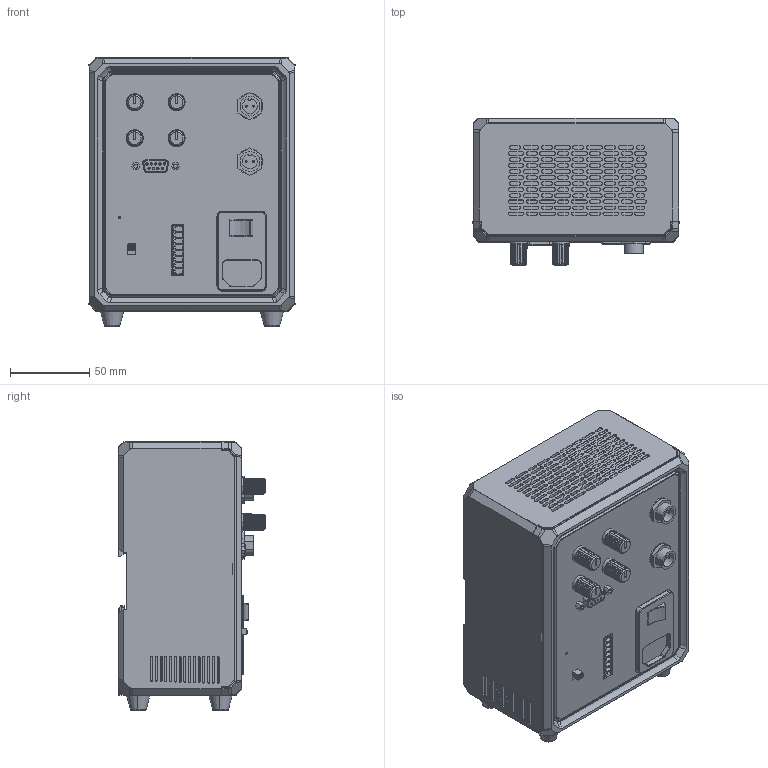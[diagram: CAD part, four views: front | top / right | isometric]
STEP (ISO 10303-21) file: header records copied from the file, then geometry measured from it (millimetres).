
FILE_DESCRIPTION((''),'2;1');
FILE_NAME('PRT0083','2024-04-07T10:40:20',('qinyangfan'),(''),'CREO PARAMETRIC BY PTC INC, 2020044','CREO PARAMETRIC BY PTC INC, 2020044','');
FILE_SCHEMA(('CONFIG_CONTROL_DESIGN'));
Products named in the file (1): PRT0083
Bounding box: 130.23 x 92.87 x 169.62 mm (x, y, z)
Volume: 1535962.8 mm3; surface area: 157652 mm2
Topology: 1 solids, 45 shells, 4754 faces, 13432 edges, 8951 vertices
Faces by surface type: plane 2542, cylinder 1470, bspline 268, sphere 175, cone 151, torus 93, extrusion 47, revolution 8
Entity records: 185948 total; most frequent: CARTESIAN_POINT 64744, ORIENTED_EDGE 26516, DIRECTION 23859, EDGE_CURVE 13258, VERTEX_POINT 8951, AXIS2_PLACEMENT_3D 8400, VECTOR 7051, LINE 7004
